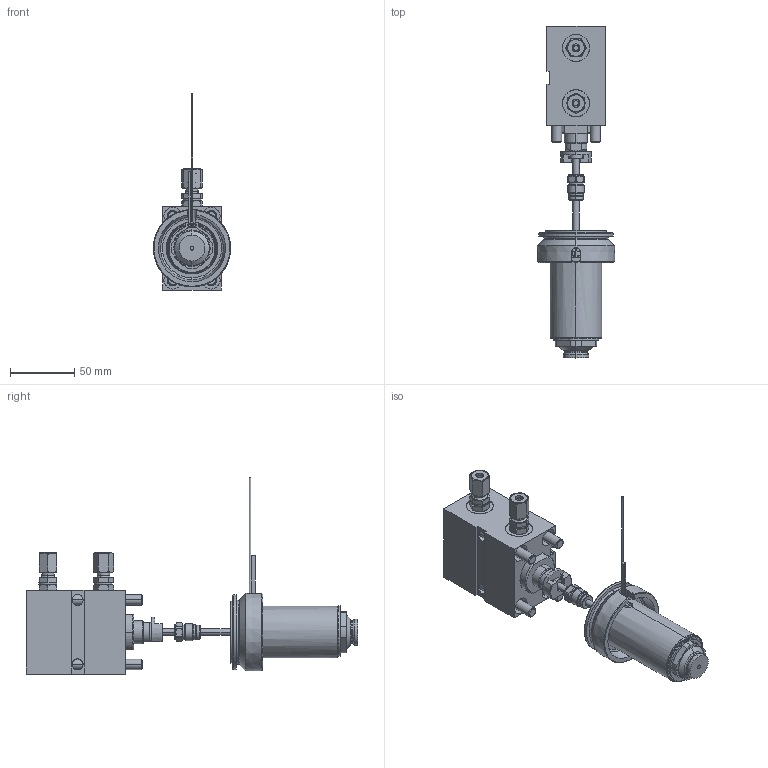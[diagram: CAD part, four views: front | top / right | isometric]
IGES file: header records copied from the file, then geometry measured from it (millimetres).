
Start section: Write IGES format                                    datakit 2008 (c)
Global section: file name: Unknown; native system: DATAKIT Converter; preprocessor: Unknown; author: Unknown; organization: Unknown; date: 950613.180003; units: millimetre
Bounding box: 59.97 x 257.5 x 152.15 mm (x, y, z)
Surface area: 137234.1 mm2 (no closed solid volume)
Topology: 0 solids, 0 shells, 800 faces, 3612 edges, 3594 vertices
Faces by surface type: revolution 516, bspline 284
